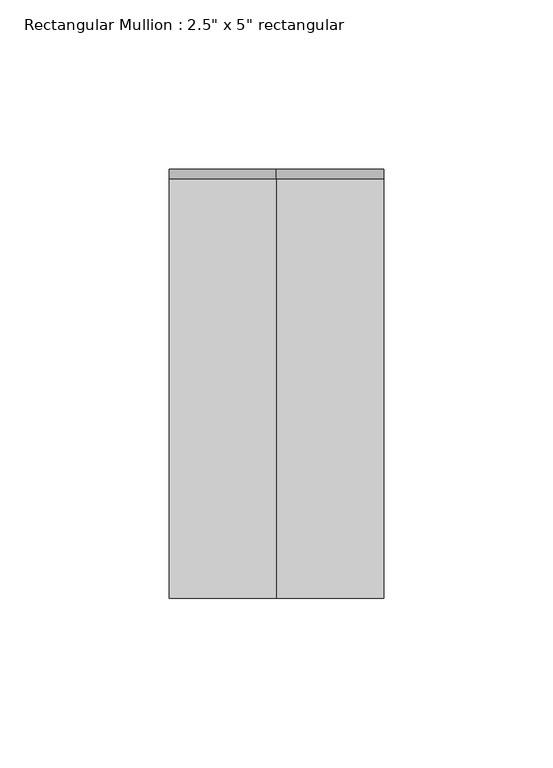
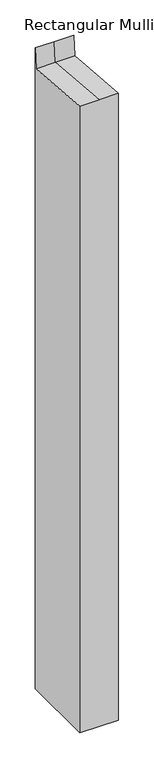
"""IFC4 building model written with IfcOpenShell, lengths in millimetres: member geometry."""

from ifc_helpers import new_model, si_unit, origin, place, context, project, spatial, faceted_brep, source, transform, mapped, element, save


def member_43d56b1e(model_context):
    return source(origin(), model_context, "Body", "Brep", [
        faceted_brep([(31.75, 63.5, -1083.8158365), (31.75, -63.5, -1083.8158365), (-31.75, -63.5, -1083.8158365), (-31.75, 63.5, -1083.8158365), (-31.75, 63.5, 29.1236206), (0.0, 63.5, 29.1236206), (31.75, 63.5, 29.1236206), (-31.75, -63.5, 5.152946), (-31.75, 60.6612211, -5.1353461), (31.75, -63.5, 5.152946), (0.0, -63.5, 5.152946), (31.75, 60.6612211, -5.1353461), (0.0, 60.6612211, -5.1353461)], [[[0, 1, 2, 3]], [[4, 5, 6, 0, 3]], [[7, 8, 4, 3, 2]], [[9, 10, 7, 2, 1]], [[6, 11, 9, 1, 0]], [[6, 5, 12, 11]], [[5, 4, 8, 12]], [[8, 7, 10, 12]], [[10, 9, 11, 12]]]),
    ])


if __name__ == "__main__":
    model = new_model("IFC4")
    model_context = context("Model", 3, world=origin())
    ifc_project = project(units=[si_unit("LENGTHUNIT", "METRE", prefix="MILLI")], contexts=[model_context])
    site = spatial("IfcSite", under=ifc_project)
    building = spatial("IfcBuilding", under=site)
    placement = place(None, origin())
    member_shape = member_43d56b1e(model_context)
    element("IfcMember", 1, ObjectType="Rectangular Mullion : 2.5\" x 5\" rectangular", at=placement, inside=building, context=model_context, shape_type="MappedRepresentation", body=[
        mapped(member_shape, transform((0.0, 0.0, 0.0), x_axis=(1.0, 0.0, 0.0), y_axis=(0.0, 1.0, 0.0), z_axis=(0.0, 0.0, 1.0))),
    ])
    save(model, "model.ifc")
